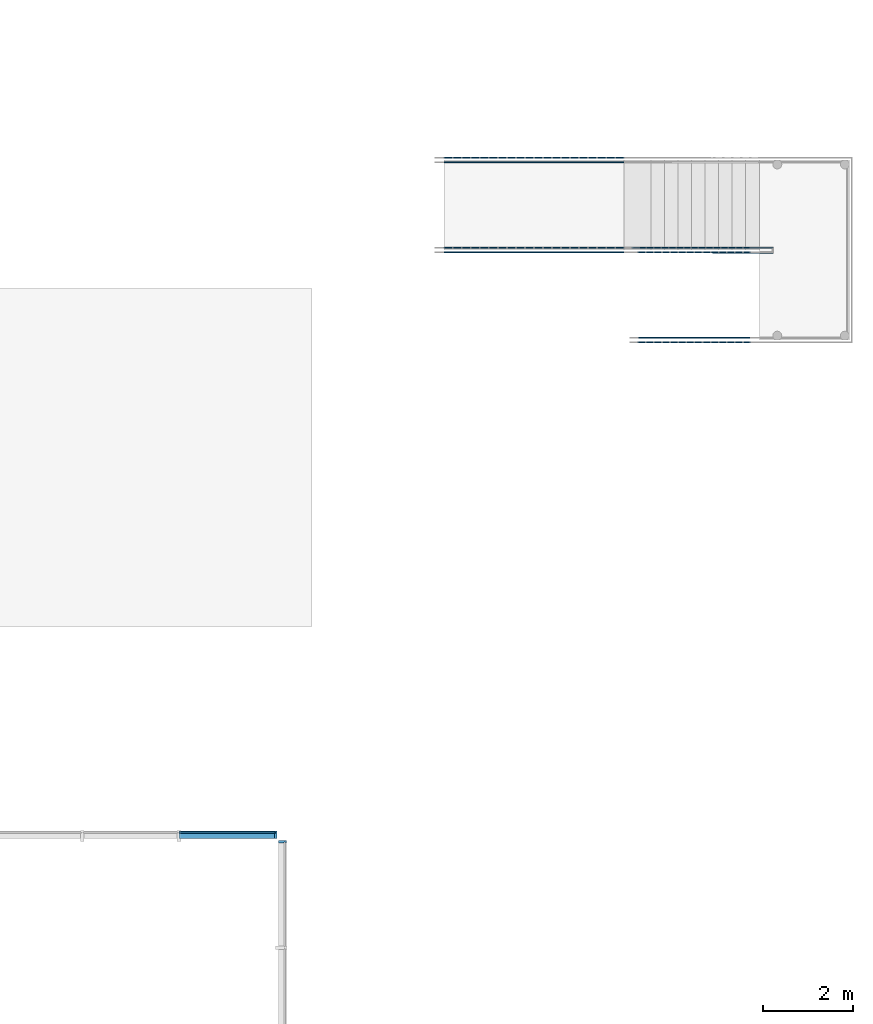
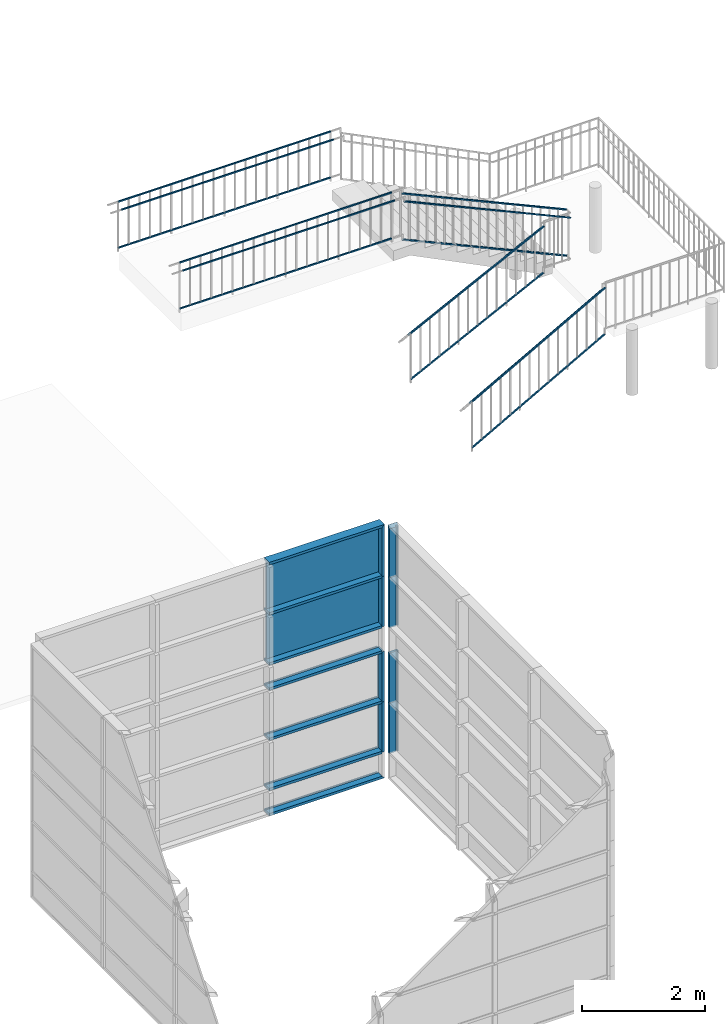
# One storey, part 10 of 19: 32 building element parts, 4 elements without a shape of their own.
"""IFC4 building model written with IfcOpenShell, lengths in millimetres."""

from ifc_helpers import new_model, entity, si_unit, converted_unit, derived_unit, direction, frame, origin_with_axes, place, context, subcontext, project, spatial, triangles, material, element, aggregate, save


model = new_model("IFC4")

# Units and contexts
model_context = context("Model", 3, precision=1e-05, world=origin_with_axes(), true_north=direction((0.0, 1.0)))
body_context = subcontext(model_context, "Body", "Model", "MODEL_VIEW")
ifc_project = project(units=[si_unit("LENGTHUNIT", "METRE", prefix="MILLI"), si_unit("AREAUNIT", "SQUARE_METRE"), si_unit("VOLUMEUNIT", "CUBIC_METRE"), converted_unit("PLANEANGLEUNIT", "DEGREE", entity("IfcLengthMeasure", 0.017453), si_unit("PLANEANGLEUNIT", "RADIAN"), dimensions=[0, 0, 0, 0, 0, 0, 0]), si_unit("SOLIDANGLEUNIT", "STERADIAN"), si_unit("MASSUNIT", "GRAM"), si_unit("TIMEUNIT", "SECOND"), si_unit("THERMODYNAMICTEMPERATUREUNIT", "DEGREE_CELSIUS"), si_unit("LUMINOUSINTENSITYUNIT", "LUMEN"), si_unit("POWERUNIT", "WATT"), derived_unit("THERMALTRANSMITTANCEUNIT", [(si_unit("POWERUNIT", "WATT"), 1), (si_unit("THERMODYNAMICTEMPERATUREUNIT", "KELVIN"), -1), (si_unit("AREAUNIT", "SQUARE_METRE"), -1)])], contexts=[model_context])

# Site, building, storey
site_placement = place(None, origin_with_axes())
site = spatial("IfcSite", under=ifc_project, at=site_placement, Name="Default Site", CompositionType="ELEMENT")
building_placement = place(site_placement, origin_with_axes())
building = spatial("IfcBuilding", under=site, at=building_placement, Name="Default Building", CompositionType="ELEMENT")
storey_placement = place(building_placement, frame((0.0, 0.0, 3000.0), z_axis=(0.0, 0.0, 1.0), x_axis=(1.0, 0.0, 0.0)))
storey = spatial("IfcBuildingStorey", under=building, at=storey_placement, Name="EG - Story", CompositionType="ELEMENT", Elevation=3000.0)

# Railing, building element parts
railing_1_placement = place(storey_placement, origin_with_axes())
railing_1 = element("IfcRailing", 1, at=railing_1_placement, inside=storey, Name="Geländer - 001", PredefinedType="NOTDEFINED")
ifc_material_1 = material(Name="Bekleidung")
building_element_part_1_placement = place(railing_1_placement, frame((84051.391327, -29589.262838, -3000.0), z_axis=(0.0, 0.0, 1.0), x_axis=(1.0, 0.0, 0.0)))
building_element_part_1 = element("IfcBuildingElementPart", 2, at=building_element_part_1_placement, material=ifc_material_1, Name="Bekleidung", PredefinedType="NOTDEFINED", context=body_context, shape_type="Tessellation", body=[
    triangles([(0.0, 37.5, 1050.0), (11.18, 37.5, 1027.639), (2525.0, 37.5, 2284.549), (2500.0, 37.5, 2300.0), (0.0, 62.5, 1050.0), (11.18, 62.5, 1027.639), (2525.0, 62.5, 2284.549), (2500.0, 62.5, 2300.0)], [[1, 2, 3], [1, 3, 4], [1, 5, 6], [1, 6, 2], [2, 6, 7], [2, 7, 3], [4, 3, 7], [4, 7, 8], [5, 1, 4], [5, 4, 8], [6, 5, 8], [6, 8, 7]], closed=False),
])
building_element_part_2_placement = place(railing_1_placement, frame((84051.391327, -29589.262838, -3000.0), z_axis=(0.0, 0.0, 1.0), x_axis=(1.0, 0.0, 0.0)))
building_element_part_2 = element("IfcBuildingElementPart", 3, at=building_element_part_2_placement, material=ifc_material_1, Name="Bekleidung", PredefinedType="NOTDEFINED", context=body_context, shape_type="Tessellation", body=[
    triangles([(0.0, -62.499, 1150.0), (11.18, -62.499, 1127.639), (2525.0, -62.499, 2384.549), (2500.0, -62.499, 2400.0), (0.0, -37.499, 1150.0), (11.18, -37.499, 1127.639), (2525.0, -37.499, 2384.549), (2500.0, -37.499, 2400.0)], [[1, 2, 3], [1, 3, 4], [1, 5, 6], [1, 6, 2], [2, 6, 7], [2, 7, 3], [4, 3, 7], [4, 7, 8], [5, 1, 4], [5, 4, 8], [6, 5, 8], [6, 8, 7]], closed=False),
])
building_element_part_3_placement = place(railing_1_placement, frame((84051.391327, -29589.262838, -3000.0), z_axis=(0.0, 0.0, 1.0), x_axis=(1.0, 0.0, 0.0)))
building_element_part_3 = element("IfcBuildingElementPart", 4, at=building_element_part_3_placement, material=ifc_material_1, Name="Bekleidung", PredefinedType="NOTDEFINED", context=body_context, shape_type="Tessellation", body=[
    triangles([(-5.589, -62.499, 231.18), (5.59, -62.499, 208.82), (2512.5, -62.499, 1462.275), (2487.5, -62.499, 1477.725), (-5.589, -37.499, 231.18), (5.59, -37.499, 208.82), (2512.5, -37.499, 1462.275), (2487.5, -37.499, 1477.725)], [[1, 2, 3], [1, 3, 4], [1, 5, 6], [1, 6, 2], [2, 6, 7], [2, 7, 3], [4, 3, 7], [4, 7, 8], [5, 1, 4], [5, 4, 8], [6, 5, 8], [6, 8, 7]], closed=False),
])
building_element_part_4_placement = place(railing_1_placement, frame((84051.391327, -29589.262838, -3000.0), z_axis=(0.0, 0.0, 1.0), x_axis=(1.0, 0.0, 0.0)))
building_element_part_4 = element("IfcBuildingElementPart", 5, at=building_element_part_4_placement, material=ifc_material_1, Name="Bekleidung", PredefinedType="NOTDEFINED", context=body_context, shape_type="Tessellation", body=[
    triangles([(2987.5, -38.619, 2400.0), (2982.456, -44.16, 2375.514), (-124.999, -37.499, 3792.993), (3012.5, -61.379, 2400.0), (3007.456, -66.919, 2375.514), (-124.999, -62.499, 3792.993), (-99.999, -37.499, 3809.091), (-99.999, -62.499, 3809.091)], [[1, 2, 3], [1, 4, 5], [1, 5, 2], [2, 6, 3], [1, 3, 7], [4, 1, 7], [5, 4, 8], [2, 5, 6], [7, 3, 6], [7, 6, 8], [4, 7, 8], [5, 8, 6]], closed=False),
])
building_element_part_5_placement = place(railing_1_placement, frame((84051.391327, -29589.262838, -3000.0), z_axis=(0.0, 0.0, 1.0), x_axis=(1.0, 0.0, 0.0)))
building_element_part_5 = element("IfcBuildingElementPart", 6, at=building_element_part_5_placement, material=ifc_material_1, Name="Bekleidung", PredefinedType="NOTDEFINED", context=body_context, shape_type="Tessellation", body=[
    triangles([(3012.5, 61.38, 2500.0), (3007.456, 66.92, 2475.514), (-124.999, 62.5, 3892.993), (2987.5, 38.62, 2500.0), (2982.456, 44.161, 2475.514), (-124.999, 37.5, 3892.993), (-99.999, 62.5, 3909.091), (-99.999, 37.5, 3909.091)], [[1, 2, 3], [1, 4, 5], [1, 5, 2], [2, 6, 3], [1, 3, 7], [4, 1, 7], [5, 4, 8], [2, 5, 6], [7, 3, 6], [7, 6, 8], [4, 7, 8], [5, 8, 6]], closed=False),
])
building_element_part_6_placement = place(railing_1_placement, frame((84051.391327, -29589.262838, -3000.0), z_axis=(0.0, 0.0, 1.0), x_axis=(1.0, 0.0, 0.0)))
building_element_part_6 = element("IfcBuildingElementPart", 7, at=building_element_part_6_placement, material=ifc_material_1, Name="Bekleidung", PredefinedType="NOTDEFINED", context=body_context, shape_type="Tessellation", body=[
    triangles([(3015.022, 58.609, 1582.243), (3009.978, 64.15, 1557.757), (-112.499, 62.5, 2971.042), (2990.022, 35.85, 1582.243), (2984.978, 41.391, 1557.757), (-112.499, 37.5, 2971.042), (-87.499, 62.5, 2987.14), (-87.499, 37.5, 2987.14)], [[1, 2, 3], [1, 4, 5], [1, 5, 2], [2, 6, 3], [1, 3, 7], [4, 1, 7], [5, 4, 8], [2, 5, 6], [7, 3, 6], [7, 6, 8], [4, 7, 8], [5, 8, 6]], closed=False),
])
building_element_part_7_placement = place(railing_1_placement, frame((84051.391327, -29589.262838, -3000.0), z_axis=(0.0, 0.0, 1.0), x_axis=(1.0, 0.0, 0.0)))
building_element_part_7 = element("IfcBuildingElementPart", 8, at=building_element_part_7_placement, material=ifc_material_1, Name="Bekleidung", PredefinedType="NOTDEFINED", context=body_context, shape_type="Tessellation", body=[
    triangles([(-299.999, -37.499, 3900.0), (-299.999, -37.499, 3875.0), (-4299.999, -37.499, 3875.0), (-4299.999, -37.499, 3900.0), (-299.999, -62.499, 3900.0), (-299.999, -62.499, 3875.0), (-4299.999, -62.499, 3875.0), (-4299.999, -62.499, 3900.0)], [[1, 2, 3], [1, 3, 4], [1, 5, 6], [1, 6, 2], [2, 6, 7], [2, 7, 3], [4, 3, 7], [4, 7, 8], [5, 1, 4], [5, 4, 8], [6, 5, 8], [6, 8, 7]], closed=False),
])
building_element_part_8_placement = place(railing_1_placement, frame((84051.391327, -29589.262838, -3000.0), z_axis=(0.0, 0.0, 1.0), x_axis=(1.0, 0.0, 0.0)))
building_element_part_8 = element("IfcBuildingElementPart", 9, at=building_element_part_8_placement, material=ifc_material_1, Name="Bekleidung", PredefinedType="NOTDEFINED", context=body_context, shape_type="Tessellation", body=[
    triangles([(-299.999, 62.5, 4000.0), (-299.999, 62.5, 3975.0), (-4299.999, 62.5, 3975.0), (-4299.999, 62.5, 4000.0), (-299.999, 37.5, 4000.0), (-299.999, 37.5, 3975.0), (-4299.999, 37.5, 3975.0), (-4299.999, 37.5, 4000.0)], [[1, 2, 3], [1, 3, 4], [1, 5, 6], [1, 6, 2], [2, 6, 7], [2, 7, 3], [4, 3, 7], [4, 7, 8], [5, 1, 4], [5, 4, 8], [6, 5, 8], [6, 8, 7]], closed=False),
])
building_element_part_9_placement = place(railing_1_placement, frame((84051.391327, -29589.262838, -3000.0), z_axis=(0.0, 0.0, 1.0), x_axis=(1.0, 0.0, 0.0)))
building_element_part_9 = element("IfcBuildingElementPart", 10, at=building_element_part_9_placement, material=ifc_material_1, Name="Bekleidung", PredefinedType="NOTDEFINED", context=body_context, shape_type="Tessellation", body=[
    triangles([(-299.999, 62.5, 3082.5), (-299.999, 62.5, 3057.5), (-4299.999, 62.5, 3057.5), (-4299.999, 62.5, 3082.5), (-299.999, 37.5, 3082.5), (-299.999, 37.5, 3057.5), (-4299.999, 37.5, 3057.5), (-4299.999, 37.5, 3082.5)], [[1, 2, 3], [1, 3, 4], [1, 5, 6], [1, 6, 2], [2, 6, 7], [2, 7, 3], [4, 3, 7], [4, 7, 8], [5, 1, 4], [5, 4, 8], [6, 5, 8], [6, 8, 7]], closed=False),
])
aggregate(railing_1, [building_element_part_1, building_element_part_2, building_element_part_3, building_element_part_4, building_element_part_5, building_element_part_6, building_element_part_7, building_element_part_8, building_element_part_9])

railing_2_placement = place(storey_placement, origin_with_axes())
railing_2 = element("IfcRailing", 11, at=railing_2_placement, inside=storey, Name="Geländer - 001", PredefinedType="NOTDEFINED")
building_element_part_10_placement = place(railing_2_placement, frame((84051.391327, -31589.262838, -3000.0), z_axis=(0.0, 0.0, 1.0), x_axis=(1.0, 0.0, 0.0)))
building_element_part_10 = element("IfcBuildingElementPart", 12, at=building_element_part_10_placement, material=ifc_material_1, Name="Bekleidung", PredefinedType="NOTDEFINED", context=body_context, shape_type="Tessellation", body=[
    triangles([(0.0, 37.5, 900.0), (12.141, 37.5, 878.146), (2525.0, 37.5, 2274.179), (2500.0, 37.5, 2288.889), (0.0, 62.5, 900.0), (12.141, 62.5, 878.146), (2525.0, 62.5, 2274.179), (2500.0, 62.5, 2288.889)], [[1, 2, 3], [1, 3, 4], [1, 5, 6], [1, 6, 2], [2, 6, 7], [2, 7, 3], [4, 3, 7], [4, 7, 8], [5, 1, 4], [5, 4, 8], [6, 5, 8], [6, 8, 7]], closed=False),
])
building_element_part_11_placement = place(railing_2_placement, frame((84051.391327, -31589.262838, -3000.0), z_axis=(0.0, 0.0, 1.0), x_axis=(1.0, 0.0, 0.0)))
building_element_part_11 = element("IfcBuildingElementPart", 13, at=building_element_part_11_placement, material=ifc_material_1, Name="Bekleidung", PredefinedType="NOTDEFINED", context=body_context, shape_type="Tessellation", body=[
    triangles([(0.0, -62.499, 1000.0), (12.141, -62.499, 978.146), (2525.0, -62.499, 2374.179), (2500.0, -62.499, 2388.889), (0.0, -37.499, 1000.0), (12.141, -37.499, 978.146), (2525.0, -37.499, 2374.179), (2500.0, -37.499, 2388.889)], [[1, 2, 3], [1, 3, 4], [1, 5, 6], [1, 6, 2], [2, 6, 7], [2, 7, 3], [4, 3, 7], [4, 7, 8], [5, 1, 4], [5, 4, 8], [6, 5, 8], [6, 8, 7]], closed=False),
])
building_element_part_12_placement = place(railing_2_placement, frame((84051.391327, -31589.262838, -3000.0), z_axis=(0.0, 0.0, 1.0), x_axis=(1.0, 0.0, 0.0)))
building_element_part_12 = element("IfcBuildingElementPart", 14, at=building_element_part_12_placement, material=ifc_material_1, Name="Bekleidung", PredefinedType="NOTDEFINED", context=body_context, shape_type="Tessellation", body=[
    triangles([(-6.07, -62.499, 80.927), (6.071, -62.499, 59.073), (2512.5, -62.499, 1451.534), (2487.5, -62.499, 1466.244), (-6.07, -37.499, 80.927), (6.071, -37.499, 59.073), (2512.5, -37.499, 1451.534), (2487.5, -37.499, 1466.244)], [[1, 2, 3], [1, 3, 4], [1, 5, 6], [1, 6, 2], [2, 6, 7], [2, 7, 3], [4, 3, 7], [4, 7, 8], [5, 1, 4], [5, 4, 8], [6, 5, 8], [6, 8, 7]], closed=False),
])
building_element_part_13_placement = place(railing_2_placement, frame((84051.391327, -31589.262838, -3000.0), z_axis=(0.0, 0.0, 1.0), x_axis=(1.0, 0.0, 0.0)))
building_element_part_13 = element("IfcBuildingElementPart", 15, at=building_element_part_13_placement, material=ifc_material_1, Name="Bekleidung", PredefinedType="NOTDEFINED", context=body_context, shape_type="Tessellation", body=[
    triangles([(-299.999, 3962.5, 3900.0), (-299.999, 3962.5, 3875.0), (-4299.999, 3962.5, 3875.0), (-4299.999, 3962.5, 3900.0), (-299.999, 3937.5, 3900.0), (-299.999, 3937.5, 3875.0), (-4299.999, 3937.5, 3875.0), (-4299.999, 3937.5, 3900.0)], [[1, 2, 3], [1, 3, 4], [1, 5, 6], [1, 6, 2], [2, 6, 7], [2, 7, 3], [4, 3, 7], [4, 7, 8], [5, 1, 4], [5, 4, 8], [6, 5, 8], [6, 8, 7]], closed=False),
])
building_element_part_14_placement = place(railing_2_placement, frame((84051.391327, -31589.262838, -3000.0), z_axis=(0.0, 0.0, 1.0), x_axis=(1.0, 0.0, 0.0)))
building_element_part_14 = element("IfcBuildingElementPart", 16, at=building_element_part_14_placement, material=ifc_material_1, Name="Bekleidung", PredefinedType="NOTDEFINED", context=body_context, shape_type="Tessellation", body=[
    triangles([(-299.999, 4062.5, 4000.0), (-299.999, 4062.5, 3975.0), (-4299.999, 4062.5, 3975.0), (-4299.999, 4062.5, 4000.0), (-299.999, 4037.5, 4000.0), (-299.999, 4037.5, 3975.0), (-4299.999, 4037.5, 3975.0), (-4299.999, 4037.5, 4000.0)], [[1, 2, 3], [1, 3, 4], [1, 5, 6], [1, 6, 2], [2, 6, 7], [2, 7, 3], [4, 3, 7], [4, 7, 8], [5, 1, 4], [5, 4, 8], [6, 5, 8], [6, 8, 7]], closed=False),
])
building_element_part_15_placement = place(railing_2_placement, frame((84051.391327, -31589.262838, -3000.0), z_axis=(0.0, 0.0, 1.0), x_axis=(1.0, 0.0, 0.0)))
building_element_part_15 = element("IfcBuildingElementPart", 17, at=building_element_part_15_placement, material=ifc_material_1, Name="Bekleidung", PredefinedType="NOTDEFINED", context=body_context, shape_type="Tessellation", body=[
    triangles([(-299.999, 4062.5, 3082.5), (-299.999, 4062.5, 3057.5), (-4299.999, 4062.5, 3057.5), (-4299.999, 4062.5, 3082.5), (-299.999, 4037.5, 3082.5), (-299.999, 4037.5, 3057.5), (-4299.999, 4037.5, 3057.5), (-4299.999, 4037.5, 3082.5)], [[1, 2, 3], [1, 3, 4], [1, 5, 6], [1, 6, 2], [2, 6, 7], [2, 7, 3], [4, 3, 7], [4, 7, 8], [5, 1, 4], [5, 4, 8], [6, 5, 8], [6, 8, 7]], closed=False),
])
aggregate(railing_2, [building_element_part_10, building_element_part_11, building_element_part_12, building_element_part_13, building_element_part_14, building_element_part_15])

# Curtain wall, building element parts
curtain_wall_1_placement = place(storey_placement, origin_with_axes())
curtain_wall_1 = element("IfcCurtainWall", 18, at=curtain_wall_1_placement, inside=storey, Name="Fassade-008", PredefinedType="NOTDEFINED")
ifc_material_2 = material(Name="Blech")
building_element_part_16_placement = place(curtain_wall_1_placement, frame((76219.438321, -43896.324358, 0.0), z_axis=(0.0, 0.0, 1.0), x_axis=(1.0, 0.0, 0.0)))
building_element_part_16 = element("IfcBuildingElementPart", 19, at=building_element_part_16_placement, material=ifc_material_2, Name="Blech", PredefinedType="NOTDEFINED", context=body_context, shape_type="Tessellation", body=[
    triangles([(15.0, 1150.325, 1500.0), (15.0, 1170.325, 1500.0), (35.0, 1200.325, 1500.0), (-14.999, 1170.325, 1500.0), (-132.999, 1150.325, 1500.0), (-14.999, 1150.325, 1500.0), (-132.999, 1200.325, 1500.0), (35.0, 1150.325, 1500.0), (-14.999, 1170.325, 500.0), (15.0, 1170.325, 500.0), (15.0, 1150.325, 500.0), (35.0, 1150.325, 500.0), (35.0, 1200.325, 500.0), (-132.999, 1200.325, 500.0), (-132.999, 1150.325, 500.0), (-14.999, 1150.325, 500.0)], [[1, 2, 3], [3, 2, 4], [3, 4, 5], [5, 4, 6], [3, 5, 7], [1, 3, 8], [2, 4, 9], [2, 9, 10], [11, 1, 2], [11, 2, 10], [1, 11, 12], [1, 12, 8], [13, 3, 8], [13, 8, 12], [14, 7, 3], [14, 3, 13], [15, 5, 7], [15, 7, 14], [16, 6, 5], [16, 5, 15], [4, 6, 16], [4, 16, 9], [13, 12, 11], [13, 11, 10], [13, 10, 9], [13, 9, 15], [13, 15, 14], [16, 15, 9]], closed=False),
])
building_element_part_17_placement = place(curtain_wall_1_placement, frame((76219.438321, -43896.324358, 0.0), z_axis=(0.0, 0.0, 1.0), x_axis=(1.0, 0.0, 0.0)))
building_element_part_17 = element("IfcBuildingElementPart", 20, at=building_element_part_17_placement, material=ifc_material_2, Name="Blech", PredefinedType="NOTDEFINED", context=body_context, shape_type="Tessellation", body=[
    triangles([(15.0, 1150.325, 2500.0), (15.0, 1170.325, 2500.0), (35.0, 1200.325, 2500.0), (-14.999, 1170.325, 2500.0), (-132.999, 1150.325, 2500.0), (-14.999, 1150.325, 2500.0), (-132.999, 1200.325, 2500.0), (35.0, 1150.325, 2500.0), (-14.999, 1170.325, 1500.0), (15.0, 1170.325, 1500.0), (15.0, 1150.325, 1500.0), (35.0, 1150.325, 1500.0), (35.0, 1200.325, 1500.0), (-132.999, 1200.325, 1500.0), (-132.999, 1150.325, 1500.0), (-14.999, 1150.325, 1500.0)], [[1, 2, 3], [3, 2, 4], [3, 4, 5], [5, 4, 6], [3, 5, 7], [1, 3, 8], [2, 4, 9], [2, 9, 10], [11, 1, 2], [11, 2, 10], [1, 11, 12], [1, 12, 8], [13, 3, 8], [13, 8, 12], [14, 7, 3], [14, 3, 13], [15, 5, 7], [15, 7, 14], [16, 6, 5], [16, 5, 15], [4, 6, 16], [4, 16, 9], [13, 12, 11], [13, 11, 10], [13, 10, 9], [13, 9, 15], [13, 15, 14], [16, 15, 9]], closed=False),
])
building_element_part_18_placement = place(curtain_wall_1_placement, frame((76219.438321, -43896.324358, 0.0), z_axis=(0.0, 0.0, 1.0), x_axis=(1.0, 0.0, 0.0)))
building_element_part_18 = element("IfcBuildingElementPart", 21, at=building_element_part_18_placement, material=ifc_material_2, Name="Blech", PredefinedType="NOTDEFINED", context=body_context, shape_type="Tessellation", body=[
    triangles([(15.0, 1150.325, 4000.0), (15.0, 1170.325, 4000.0), (35.0, 1200.325, 4000.0), (-14.999, 1170.325, 4000.0), (-132.999, 1150.325, 4000.0), (-14.999, 1150.325, 4000.0), (-132.999, 1200.325, 4000.0), (35.0, 1150.325, 4000.0), (-14.999, 1170.325, 3000.0), (15.0, 1170.325, 3000.0), (15.0, 1150.325, 3000.0), (35.0, 1150.325, 3000.0), (35.0, 1200.325, 3000.0), (-132.999, 1200.325, 3000.0), (-132.999, 1150.325, 3000.0), (-14.999, 1150.325, 3000.0)], [[1, 2, 3], [3, 2, 4], [3, 4, 5], [5, 4, 6], [3, 5, 7], [1, 3, 8], [2, 4, 9], [2, 9, 10], [11, 1, 2], [11, 2, 10], [1, 11, 12], [1, 12, 8], [13, 3, 8], [13, 8, 12], [14, 7, 3], [14, 3, 13], [15, 5, 7], [15, 7, 14], [16, 6, 5], [16, 5, 15], [4, 6, 16], [4, 16, 9], [13, 12, 11], [13, 11, 10], [13, 10, 9], [13, 9, 15], [13, 15, 14], [16, 15, 9]], closed=False),
])
building_element_part_19_placement = place(curtain_wall_1_placement, frame((76219.438321, -43896.324358, 0.0), z_axis=(0.0, 0.0, 1.0), x_axis=(1.0, 0.0, 0.0)))
building_element_part_19 = element("IfcBuildingElementPart", 22, at=building_element_part_19_placement, material=ifc_material_2, Name="Blech", PredefinedType="NOTDEFINED", context=body_context, shape_type="Tessellation", body=[
    triangles([(15.0, 1170.325, 4995.0), (-14.999, 1170.325, 4995.0), (-132.999, 1200.325, 5025.0), (35.0, 1200.325, 5025.0), (35.0, 1150.325, 4975.0), (15.0, 1150.325, 4975.0), (-14.999, 1150.325, 4975.0), (-132.999, 1150.325, 4975.0), (-14.999, 1170.325, 4000.0), (15.0, 1170.325, 4000.0), (15.0, 1150.325, 4000.0), (35.0, 1150.325, 4000.0), (35.0, 1200.325, 4000.0), (-132.999, 1200.325, 4000.0), (-132.999, 1150.325, 4000.0), (-14.999, 1150.325, 4000.0)], [[1, 2, 3], [1, 3, 4], [1, 4, 5], [1, 5, 6], [7, 8, 3], [7, 3, 2], [1, 2, 9], [1, 9, 10], [11, 6, 1], [11, 1, 10], [6, 11, 12], [6, 12, 5], [13, 4, 5], [13, 5, 12], [14, 3, 4], [14, 4, 13], [15, 8, 3], [15, 3, 14], [16, 7, 8], [16, 8, 15], [2, 7, 16], [2, 16, 9], [13, 12, 11], [13, 11, 10], [13, 10, 9], [13, 9, 15], [13, 15, 14], [16, 15, 9]], closed=False),
])
aggregate(curtain_wall_1, [building_element_part_16, building_element_part_17, building_element_part_18, building_element_part_19])

curtain_wall_2_placement = place(storey_placement, origin_with_axes())
curtain_wall_2 = element("IfcCurtainWall", 23, at=curtain_wall_2_placement, inside=storey, Name="Fassade-012", PredefinedType="NOTDEFINED")
ifc_material_3 = material(Name="Normalglas")
building_element_part_20_placement = place(curtain_wall_2_placement, frame((74946.430489, -42520.999636, -4.5e-05), z_axis=(0.0, 0.0, 1.0), x_axis=(1.0, 0.0, 0.0)))
building_element_part_20 = element("IfcBuildingElementPart", 24, at=building_element_part_20_placement, material=ifc_material_3, Name="Normalglas", PredefinedType="NOTDEFINED", context=body_context, shape_type="Tessellation", body=[
    triangles([(-1063.007, -14.999, 3995.0), (1068.008, -14.999, 3995.0), (1068.008, 15.0, 3995.0), (-1063.007, 15.0, 3995.0), (-1063.007, -14.999, 3005.0), (1068.008, -14.999, 3005.0), (1068.008, 15.0, 3005.0), (-1063.007, 15.0, 3005.0)], [[1, 2, 3], [1, 3, 4], [1, 5, 6], [1, 6, 2], [2, 6, 7], [2, 7, 3], [4, 3, 7], [4, 7, 8], [5, 1, 4], [5, 4, 8], [6, 5, 8], [6, 8, 7]], closed=False),
])
building_element_part_21_placement = place(curtain_wall_2_placement, frame((74946.430489, -42520.999636, -4.5e-05), z_axis=(0.0, 0.0, 1.0), x_axis=(1.0, 0.0, 0.0)))
building_element_part_21 = element("IfcBuildingElementPart", 25, at=building_element_part_21_placement, material=ifc_material_3, Name="Normalglas", PredefinedType="NOTDEFINED", context=body_context, shape_type="Tessellation", body=[
    triangles([(-1063.007, -14.999, 4995.0), (1068.008, -14.999, 4995.0), (1068.008, 15.0, 4995.0), (-1063.007, 15.0, 4995.0), (-1063.007, -14.999, 4005.0), (1068.008, -14.999, 4005.0), (1068.008, 15.0, 4005.0), (-1063.007, 15.0, 4005.0)], [[1, 2, 3], [1, 3, 4], [1, 5, 6], [1, 6, 2], [2, 6, 7], [2, 7, 3], [4, 3, 7], [4, 7, 8], [5, 1, 4], [5, 4, 8], [6, 5, 8], [6, 8, 7]], closed=False),
])
building_element_part_22_placement = place(curtain_wall_2_placement, frame((74946.430489, -42520.999636, -4.5e-05), z_axis=(0.0, 0.0, 1.0), x_axis=(1.0, 0.0, 0.0)))
building_element_part_22 = element("IfcBuildingElementPart", 26, at=building_element_part_22_placement, material=ifc_material_2, Name="Blech", PredefinedType="NOTDEFINED", context=body_context, shape_type="Tessellation", body=[
    triangles([(-1073.007, 15.0, 25.0), (-1073.007, 15.0, 5.0), (-1073.007, 35.0, -24.999), (-1073.007, -14.999, 5.0), (-1073.007, -132.999, 25.0), (-1073.007, -14.999, 25.0), (-1073.007, -132.999, -24.999), (-1073.007, 35.0, 25.0), (1068.008, -14.999, 5.0), (1068.008, 15.0, 5.0), (1048.008, 15.0, 25.0), (1048.008, 35.0, 25.0), (1098.008, 35.0, -24.999), (1098.008, -132.999, -24.999), (1048.008, -132.999, 25.0), (1048.008, -14.999, 25.0)], [[1, 2, 3], [3, 2, 4], [3, 4, 5], [5, 4, 6], [3, 5, 7], [1, 3, 8], [2, 4, 9], [2, 9, 10], [11, 1, 2], [11, 2, 10], [1, 11, 12], [1, 12, 8], [3, 8, 12], [3, 12, 13], [7, 3, 13], [7, 13, 14], [5, 7, 14], [5, 14, 15], [16, 6, 5], [16, 5, 15], [4, 6, 16], [4, 16, 9], [10, 9, 14], [10, 14, 13], [10, 13, 12], [10, 12, 11], [16, 15, 14], [16, 14, 9]], closed=False),
])
building_element_part_23_placement = place(curtain_wall_2_placement, frame((74946.430489, -42520.999636, -4.5e-05), z_axis=(0.0, 0.0, 1.0), x_axis=(1.0, 0.0, 0.0)))
building_element_part_23 = element("IfcBuildingElementPart", 27, at=building_element_part_23_placement, material=ifc_material_2, Name="Blech", PredefinedType="NOTDEFINED", context=body_context, shape_type="Tessellation", body=[
    triangles([(-1073.007, 35.0, 475.0), (-1073.007, 15.0, 475.0), (-1073.007, 35.0, 525.0), (-1073.007, 15.0, 495.0), (-1073.007, 15.0, 505.0), (-1073.007, -14.999, 495.0), (-1073.007, -14.999, 505.0), (-1073.007, -14.999, 525.0), (-1073.007, -14.999, 475.0), (-1073.007, -132.999, 475.0), (-1073.007, -132.999, 525.0), (-1073.007, 15.0, 525.0), (1048.008, -14.999, 495.0), (1048.008, -14.999, 475.0), (1048.008, -132.999, 475.0), (1048.008, -132.999, 525.0), (1048.008, -14.999, 525.0), (1048.008, -14.999, 505.0), (1048.008, 15.0, 505.0), (1048.008, 15.0, 525.0), (1048.008, 35.0, 525.0), (1048.008, 35.0, 475.0), (1048.008, 15.0, 475.0), (1048.008, 15.0, 495.0)], [[1, 2, 3], [3, 2, 4], [3, 4, 5], [5, 4, 6], [5, 6, 7], [8, 9, 10], [8, 10, 11], [3, 5, 12], [9, 6, 13], [9, 13, 14], [9, 14, 15], [9, 15, 10], [10, 15, 16], [10, 16, 11], [8, 11, 16], [8, 16, 17], [8, 17, 18], [8, 18, 7], [7, 18, 19], [7, 19, 5], [12, 5, 19], [12, 19, 20], [20, 21, 3], [20, 3, 12], [3, 21, 22], [3, 22, 1], [23, 2, 1], [23, 1, 22], [4, 2, 23], [4, 23, 24], [6, 4, 24], [6, 24, 13], [21, 20, 22], [22, 20, 19], [22, 19, 24], [24, 19, 18], [24, 18, 13], [14, 17, 16], [14, 16, 15], [22, 24, 23]], closed=False),
])
building_element_part_24_placement = place(curtain_wall_2_placement, frame((74946.430489, -42520.999636, -4.5e-05), z_axis=(0.0, 0.0, 1.0), x_axis=(1.0, 0.0, 0.0)))
building_element_part_24 = element("IfcBuildingElementPart", 28, at=building_element_part_24_placement, material=ifc_material_2, Name="Blech", PredefinedType="NOTDEFINED", context=body_context, shape_type="Tessellation", body=[
    triangles([(1068.008, 15.0, 1500.0), (1068.008, -14.999, 1500.0), (1098.008, -132.999, 1500.0), (1098.008, 35.0, 1500.0), (1048.008, 35.0, 1500.0), (1048.008, 15.0, 1500.0), (1048.008, -14.999, 1500.0), (1048.008, -132.999, 1500.0), (1068.008, -14.999, 500.0), (1048.008, -14.999, 500.0), (1048.008, -132.999, 500.0), (1098.008, -132.999, 500.0), (1098.008, 35.0, 500.0), (1048.008, 35.0, 500.0), (1048.008, 15.0, 500.0), (1068.008, 15.0, 500.0)], [[1, 2, 3], [1, 3, 4], [1, 4, 5], [1, 5, 6], [7, 8, 3], [7, 3, 2], [2, 9, 10], [2, 10, 7], [10, 11, 8], [10, 8, 7], [11, 12, 3], [11, 3, 8], [12, 13, 4], [12, 4, 3], [13, 14, 5], [13, 5, 4], [6, 5, 14], [6, 14, 15], [15, 16, 1], [15, 1, 6], [1, 16, 9], [1, 9, 2], [16, 9, 12], [16, 12, 13], [16, 13, 14], [16, 14, 15], [10, 11, 12], [10, 12, 9]], closed=False),
])
building_element_part_25_placement = place(curtain_wall_2_placement, frame((74946.430489, -42520.999636, -4.5e-05), z_axis=(0.0, 0.0, 1.0), x_axis=(1.0, 0.0, 0.0)))
building_element_part_25 = element("IfcBuildingElementPart", 29, at=building_element_part_25_placement, material=ifc_material_2, Name="Blech", PredefinedType="NOTDEFINED", context=body_context, shape_type="Tessellation", body=[
    triangles([(-1073.007, 35.0, 1475.0), (-1073.007, 15.0, 1475.0), (-1073.007, 35.0, 1525.0), (-1073.007, 15.0, 1495.0), (-1073.007, 15.0, 1505.0), (-1073.007, -14.999, 1495.0), (-1073.007, -14.999, 1505.0), (-1073.007, -14.999, 1525.0), (-1073.007, -14.999, 1475.0), (-1073.007, -132.999, 1475.0), (-1073.007, -132.999, 1525.0), (-1073.007, 15.0, 1525.0), (1048.008, -14.999, 1495.0), (1048.008, -14.999, 1475.0), (1048.008, -132.999, 1475.0), (1048.008, -132.999, 1525.0), (1048.008, -14.999, 1525.0), (1048.008, -14.999, 1505.0), (1048.008, 15.0, 1505.0), (1048.008, 15.0, 1525.0), (1048.008, 35.0, 1525.0), (1048.008, 35.0, 1475.0), (1048.008, 15.0, 1475.0), (1048.008, 15.0, 1495.0)], [[1, 2, 3], [3, 2, 4], [3, 4, 5], [5, 4, 6], [5, 6, 7], [8, 9, 10], [8, 10, 11], [3, 5, 12], [9, 6, 13], [9, 13, 14], [9, 14, 15], [9, 15, 10], [10, 15, 16], [10, 16, 11], [8, 11, 16], [8, 16, 17], [8, 17, 18], [8, 18, 7], [7, 18, 19], [7, 19, 5], [12, 5, 19], [12, 19, 20], [20, 21, 3], [20, 3, 12], [3, 21, 22], [3, 22, 1], [23, 2, 1], [23, 1, 22], [4, 2, 23], [4, 23, 24], [6, 4, 24], [6, 24, 13], [21, 20, 22], [22, 20, 19], [22, 19, 24], [24, 19, 18], [24, 18, 13], [14, 17, 16], [14, 16, 15], [22, 24, 23]], closed=False),
])
building_element_part_26_placement = place(curtain_wall_2_placement, frame((74946.430489, -42520.999636, -4.5e-05), z_axis=(0.0, 0.0, 1.0), x_axis=(1.0, 0.0, 0.0)))
building_element_part_26 = element("IfcBuildingElementPart", 30, at=building_element_part_26_placement, material=ifc_material_2, Name="Blech", PredefinedType="NOTDEFINED", context=body_context, shape_type="Tessellation", body=[
    triangles([(1068.008, 15.0, 2500.0), (1068.008, -14.999, 2500.0), (1098.008, -132.999, 2500.0), (1098.008, 35.0, 2500.0), (1048.008, 35.0, 2500.0), (1048.008, 15.0, 2500.0), (1048.008, -14.999, 2500.0), (1048.008, -132.999, 2500.0), (1068.008, -14.999, 1500.0), (1048.008, -14.999, 1500.0), (1048.008, -132.999, 1500.0), (1098.008, -132.999, 1500.0), (1098.008, 35.0, 1500.0), (1048.008, 35.0, 1500.0), (1048.008, 15.0, 1500.0), (1068.008, 15.0, 1500.0)], [[1, 2, 3], [1, 3, 4], [1, 4, 5], [1, 5, 6], [7, 8, 3], [7, 3, 2], [2, 9, 10], [2, 10, 7], [10, 11, 8], [10, 8, 7], [11, 12, 3], [11, 3, 8], [12, 13, 4], [12, 4, 3], [13, 14, 5], [13, 5, 4], [6, 5, 14], [6, 14, 15], [15, 16, 1], [15, 1, 6], [1, 16, 9], [1, 9, 2], [16, 9, 12], [16, 12, 13], [16, 13, 14], [16, 14, 15], [10, 11, 12], [10, 12, 9]], closed=False),
])
building_element_part_27_placement = place(curtain_wall_2_placement, frame((74946.430489, -42520.999636, -4.5e-05), z_axis=(0.0, 0.0, 1.0), x_axis=(1.0, 0.0, 0.0)))
building_element_part_27 = element("IfcBuildingElementPart", 31, at=building_element_part_27_placement, material=ifc_material_2, Name="Blech", PredefinedType="NOTDEFINED", context=body_context, shape_type="Tessellation", body=[
    triangles([(-1073.007, 35.0, 2475.0), (-1073.007, 15.0, 2475.0), (-1073.007, 35.0, 2525.0), (-1073.007, 15.0, 2495.0), (-1073.007, 15.0, 2505.0), (-1073.007, -14.999, 2495.0), (-1073.007, -14.999, 2505.0), (-1073.007, -14.999, 2525.0), (-1073.007, -14.999, 2475.0), (-1073.007, -132.999, 2475.0), (-1073.007, -132.999, 2525.0), (-1073.007, 15.0, 2525.0), (1048.008, -14.999, 2495.0), (1048.008, -14.999, 2475.0), (1048.008, -132.999, 2475.0), (1048.008, -132.999, 2525.0), (1048.008, -14.999, 2525.0), (1048.008, -14.999, 2505.0), (1048.008, 15.0, 2505.0), (1048.008, 15.0, 2525.0), (1048.008, 35.0, 2525.0), (1048.008, 35.0, 2475.0), (1048.008, 15.0, 2475.0), (1048.008, 15.0, 2495.0)], [[1, 2, 3], [3, 2, 4], [3, 4, 5], [5, 4, 6], [5, 6, 7], [8, 9, 10], [8, 10, 11], [3, 5, 12], [9, 6, 13], [9, 13, 14], [9, 14, 15], [9, 15, 10], [10, 15, 16], [10, 16, 11], [8, 11, 16], [8, 16, 17], [8, 17, 18], [8, 18, 7], [7, 18, 19], [7, 19, 5], [12, 5, 19], [12, 19, 20], [20, 21, 3], [20, 3, 12], [3, 21, 22], [3, 22, 1], [23, 2, 1], [23, 1, 22], [4, 2, 23], [4, 23, 24], [6, 4, 24], [6, 24, 13], [21, 20, 22], [22, 20, 19], [22, 19, 24], [24, 19, 18], [24, 18, 13], [14, 17, 16], [14, 16, 15], [22, 24, 23]], closed=False),
])
building_element_part_28_placement = place(curtain_wall_2_placement, frame((74946.430489, -42520.999636, -4.5e-05), z_axis=(0.0, 0.0, 1.0), x_axis=(1.0, 0.0, 0.0)))
building_element_part_28 = element("IfcBuildingElementPart", 32, at=building_element_part_28_placement, material=ifc_material_2, Name="Blech", PredefinedType="NOTDEFINED", context=body_context, shape_type="Tessellation", body=[
    triangles([(-1073.007, 35.0, 2975.0), (-1073.007, 15.0, 2975.0), (-1073.007, 35.0, 3025.0), (-1073.007, 15.0, 2995.0), (-1073.007, 15.0, 3005.0), (-1073.007, -14.999, 2995.0), (-1073.007, -14.999, 3005.0), (-1073.007, -14.999, 3025.0), (-1073.007, -14.999, 2975.0), (-1073.007, -132.999, 2975.0), (-1073.007, -132.999, 3025.0), (-1073.007, 15.0, 3025.0), (1048.008, -14.999, 2995.0), (1048.008, -14.999, 2975.0), (1048.008, -132.999, 2975.0), (1048.008, -132.999, 3025.0), (1048.008, -14.999, 3025.0), (1048.008, -14.999, 3005.0), (1048.008, 15.0, 3005.0), (1048.008, 15.0, 3025.0), (1048.008, 35.0, 3025.0), (1048.008, 35.0, 2975.0), (1048.008, 15.0, 2975.0), (1048.008, 15.0, 2995.0)], [[1, 2, 3], [3, 2, 4], [3, 4, 5], [5, 4, 6], [5, 6, 7], [8, 9, 10], [8, 10, 11], [3, 5, 12], [9, 6, 13], [9, 13, 14], [9, 14, 15], [9, 15, 10], [10, 15, 16], [10, 16, 11], [8, 11, 16], [8, 16, 17], [8, 17, 18], [8, 18, 7], [7, 18, 19], [7, 19, 5], [12, 5, 19], [12, 19, 20], [20, 21, 3], [20, 3, 12], [3, 21, 22], [3, 22, 1], [23, 2, 1], [23, 1, 22], [4, 2, 23], [4, 23, 24], [6, 4, 24], [6, 24, 13], [21, 20, 22], [22, 20, 19], [22, 19, 24], [24, 19, 18], [24, 18, 13], [14, 17, 16], [14, 16, 15], [22, 24, 23]], closed=False),
])
building_element_part_29_placement = place(curtain_wall_2_placement, frame((74946.430489, -42520.999636, -4.5e-05), z_axis=(0.0, 0.0, 1.0), x_axis=(1.0, 0.0, 0.0)))
building_element_part_29 = element("IfcBuildingElementPart", 33, at=building_element_part_29_placement, material=ifc_material_2, Name="Blech", PredefinedType="NOTDEFINED", context=body_context, shape_type="Tessellation", body=[
    triangles([(1068.008, 15.0, 4000.0), (1068.008, -14.999, 4000.0), (1098.008, -132.999, 4000.0), (1098.008, 35.0, 4000.0), (1048.008, 35.0, 4000.0), (1048.008, 15.0, 4000.0), (1048.008, -14.999, 4000.0), (1048.008, -132.999, 4000.0), (1068.008, -14.999, 3000.0), (1048.008, -14.999, 3000.0), (1048.008, -132.999, 3000.0), (1098.008, -132.999, 3000.0), (1098.008, 35.0, 3000.0), (1048.008, 35.0, 3000.0), (1048.008, 15.0, 3000.0), (1068.008, 15.0, 3000.0)], [[1, 2, 3], [1, 3, 4], [1, 4, 5], [1, 5, 6], [7, 8, 3], [7, 3, 2], [2, 9, 10], [2, 10, 7], [10, 11, 8], [10, 8, 7], [11, 12, 3], [11, 3, 8], [12, 13, 4], [12, 4, 3], [13, 14, 5], [13, 5, 4], [6, 5, 14], [6, 14, 15], [15, 16, 1], [15, 1, 6], [1, 16, 9], [1, 9, 2], [16, 9, 12], [16, 12, 13], [16, 13, 14], [16, 14, 15], [10, 11, 12], [10, 12, 9]], closed=False),
])
building_element_part_30_placement = place(curtain_wall_2_placement, frame((74946.430489, -42520.999636, -4.5e-05), z_axis=(0.0, 0.0, 1.0), x_axis=(1.0, 0.0, 0.0)))
building_element_part_30 = element("IfcBuildingElementPart", 34, at=building_element_part_30_placement, material=ifc_material_2, Name="Blech", PredefinedType="NOTDEFINED", context=body_context, shape_type="Tessellation", body=[
    triangles([(-1073.007, 35.0, 3975.0), (-1073.007, 15.0, 3975.0), (-1073.007, 35.0, 4025.0), (-1073.007, 15.0, 3995.0), (-1073.007, 15.0, 4005.0), (-1073.007, -14.999, 3995.0), (-1073.007, -14.999, 4005.0), (-1073.007, -14.999, 4025.0), (-1073.007, -14.999, 3975.0), (-1073.007, -132.999, 3975.0), (-1073.007, -132.999, 4025.0), (-1073.007, 15.0, 4025.0), (1048.008, -14.999, 3995.0), (1048.008, -14.999, 3975.0), (1048.008, -132.999, 3975.0), (1048.008, -132.999, 4025.0), (1048.008, -14.999, 4025.0), (1048.008, -14.999, 4005.0), (1048.008, 15.0, 4005.0), (1048.008, 15.0, 4025.0), (1048.008, 35.0, 4025.0), (1048.008, 35.0, 3975.0), (1048.008, 15.0, 3975.0), (1048.008, 15.0, 3995.0)], [[1, 2, 3], [3, 2, 4], [3, 4, 5], [5, 4, 6], [5, 6, 7], [8, 9, 10], [8, 10, 11], [3, 5, 12], [9, 6, 13], [9, 13, 14], [9, 14, 15], [9, 15, 10], [10, 15, 16], [10, 16, 11], [8, 11, 16], [8, 16, 17], [8, 17, 18], [8, 18, 7], [7, 18, 19], [7, 19, 5], [12, 5, 19], [12, 19, 20], [20, 21, 3], [20, 3, 12], [3, 21, 22], [3, 22, 1], [23, 2, 1], [23, 1, 22], [4, 2, 23], [4, 23, 24], [6, 4, 24], [6, 24, 13], [21, 20, 22], [22, 20, 19], [22, 19, 24], [24, 19, 18], [24, 18, 13], [14, 17, 16], [14, 16, 15], [22, 24, 23]], closed=False),
])
building_element_part_31_placement = place(curtain_wall_2_placement, frame((74946.430489, -42520.999636, -4.5e-05), z_axis=(0.0, 0.0, 1.0), x_axis=(1.0, 0.0, 0.0)))
building_element_part_31 = element("IfcBuildingElementPart", 35, at=building_element_part_31_placement, material=ifc_material_2, Name="Blech", PredefinedType="NOTDEFINED", context=body_context, shape_type="Tessellation", body=[
    triangles([(-1073.007, 35.0, 5025.0), (-1073.007, 35.0, 4975.0), (-1073.007, 15.0, 4975.0), (-1073.007, 15.0, 4995.0), (-1073.007, -14.999, 4995.0), (-1073.007, -132.999, 4975.0), (-1073.007, -132.999, 5025.0), (-1073.007, -14.999, 4975.0), (1068.008, -14.999, 4995.0), (1048.008, -14.999, 4975.0), (1048.008, -132.999, 4975.0), (1098.008, -132.999, 5025.0), (1098.008, 35.0, 5025.0), (1048.008, 35.0, 4975.0), (1048.008, 15.0, 4975.0), (1068.008, 15.0, 4995.0)], [[1, 2, 3], [1, 3, 4], [1, 4, 5], [1, 5, 6], [1, 6, 7], [8, 6, 5], [5, 9, 10], [5, 10, 8], [10, 11, 6], [10, 6, 8], [6, 11, 12], [6, 12, 7], [7, 12, 13], [7, 13, 1], [1, 13, 14], [1, 14, 2], [3, 2, 14], [3, 14, 15], [15, 16, 4], [15, 4, 3], [4, 16, 9], [4, 9, 5], [15, 16, 13], [13, 16, 9], [13, 9, 11], [11, 9, 10], [13, 11, 12], [15, 13, 14]], closed=False),
])
building_element_part_32_placement = place(curtain_wall_2_placement, frame((74946.430489, -42520.999636, -4.5e-05), z_axis=(0.0, 0.0, 1.0), x_axis=(1.0, 0.0, 0.0)))
building_element_part_32 = element("IfcBuildingElementPart", 36, at=building_element_part_32_placement, material=ifc_material_2, Name="Blech", PredefinedType="NOTDEFINED", context=body_context, shape_type="Tessellation", body=[
    triangles([(1098.008, 35.0, 5025.0), (1048.008, 35.0, 4975.0), (1048.008, 15.0, 4975.0), (1068.008, 15.0, 4995.0), (1068.008, -14.999, 4995.0), (1048.008, -132.999, 4975.0), (1098.008, -132.999, 5025.0), (1048.008, -14.999, 4975.0), (1068.008, -14.999, 4000.0), (1048.008, -14.999, 4000.0), (1048.008, -132.999, 4000.0), (1098.008, -132.999, 4000.0), (1098.008, 35.0, 4000.0), (1048.008, 35.0, 4000.0), (1048.008, 15.0, 4000.0), (1068.008, 15.0, 4000.0)], [[1, 2, 3], [1, 3, 4], [1, 4, 5], [1, 5, 6], [1, 6, 7], [8, 6, 5], [5, 9, 10], [5, 10, 8], [10, 11, 6], [10, 6, 8], [11, 12, 7], [11, 7, 6], [12, 13, 1], [12, 1, 7], [13, 14, 2], [13, 2, 1], [3, 2, 14], [3, 14, 15], [15, 16, 4], [15, 4, 3], [4, 16, 9], [4, 9, 5], [16, 9, 12], [16, 12, 13], [16, 13, 14], [16, 14, 15], [10, 11, 12], [10, 12, 9]], closed=False),
])
aggregate(curtain_wall_2, [building_element_part_20, building_element_part_21, building_element_part_22, building_element_part_23, building_element_part_24, building_element_part_25, building_element_part_26, building_element_part_27, building_element_part_28, building_element_part_29, building_element_part_30, building_element_part_31, building_element_part_32])

save(model, "model.ifc")
